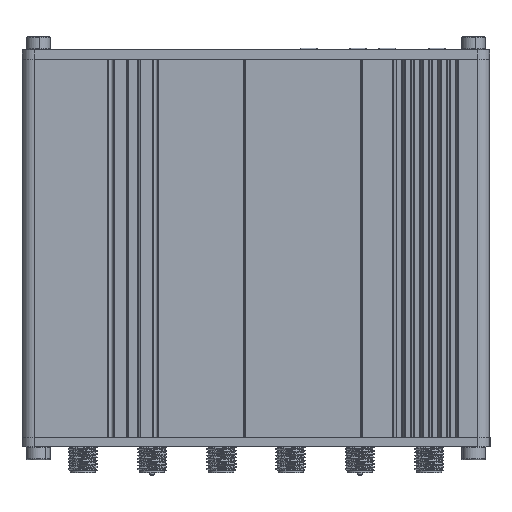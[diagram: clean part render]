
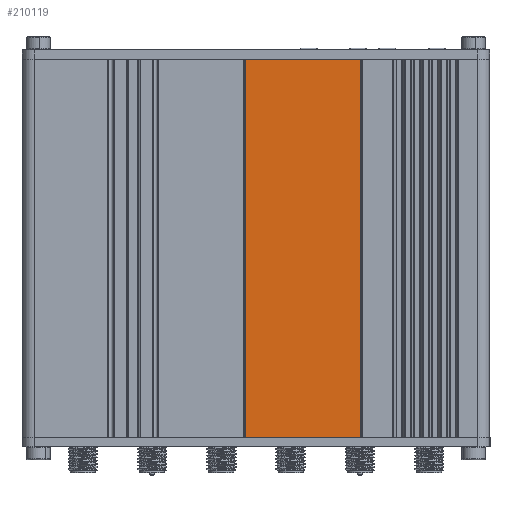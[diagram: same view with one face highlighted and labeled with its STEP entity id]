
A CAD part, front view. The second image highlights one B-rep face of the part: STEP entity #210119.
In plain terms, the highlighted planar face has unit normal (0, -1, 0).
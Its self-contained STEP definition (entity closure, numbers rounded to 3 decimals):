
#16917 = DIRECTION ( 'NONE',  ( -1., 0., 0. ) ) ;
#25293 = DIRECTION ( 'NONE',  ( 0., 0., 1. ) ) ;
#37301 = AXIS2_PLACEMENT_3D ( 'NONE', #129585, #146124, #63103 ) ;
#42012 = VECTOR ( 'NONE', #16917, 1000. ) ;
#47895 = CARTESIAN_POINT ( 'NONE',  ( -2.5, -14.75, 0. ) ) ;
#53178 = VECTOR ( 'NONE', #215626, 1000. ) ;
#63103 = DIRECTION ( 'NONE',  ( 0., 0., 1. ) ) ;
#66379 = PLANE ( 'NONE',  #37301 ) ;
#72935 = EDGE_CURVE ( 'NONE', #83316, #216395, #214543, .T. ) ;
#78652 = FACE_OUTER_BOUND ( 'NONE', #145665, .T. ) ;
#79834 = CARTESIAN_POINT ( 'NONE',  ( 22.25, -14.75, 0. ) ) ;
#83316 = VERTEX_POINT ( 'NONE', #79834 ) ;
#86478 = LINE ( 'NONE', #100891, #42012 ) ;
#94070 = CARTESIAN_POINT ( 'NONE',  ( 22.25, -14.75, 80.8 ) ) ;
#94839 = LINE ( 'NONE', #212930, #216474 ) ;
#100891 = CARTESIAN_POINT ( 'NONE',  ( -2.5, -14.75, 80.8 ) ) ;
#101788 = ORIENTED_EDGE ( 'NONE', *, *, #218233, .T. ) ;
#128569 = CARTESIAN_POINT ( 'NONE',  ( -2.25, -14.75, 0. ) ) ;
#129585 = CARTESIAN_POINT ( 'NONE',  ( -2.5, -14.75, 0. ) ) ;
#132287 = EDGE_CURVE ( 'NONE', #83316, #180810, #94839, .T. ) ;
#137866 = EDGE_CURVE ( 'NONE', #180810, #187773, #86478, .T. ) ;
#140561 = ORIENTED_EDGE ( 'NONE', *, *, #72935, .F. ) ;
#144563 = ORIENTED_EDGE ( 'NONE', *, *, #132287, .T. ) ;
#145665 = EDGE_LOOP ( 'NONE', ( #140561, #144563, #158994, #101788 ) ) ;
#145723 = CARTESIAN_POINT ( 'NONE',  ( -2.25, -14.75, 0. ) ) ;
#146124 = DIRECTION ( 'NONE',  ( 0., 1., 0. ) ) ;
#150661 = VECTOR ( 'NONE', #197417, 1000. ) ;
#158994 = ORIENTED_EDGE ( 'NONE', *, *, #137866, .T. ) ;
#180810 = VERTEX_POINT ( 'NONE', #94070 ) ;
#187773 = VERTEX_POINT ( 'NONE', #209751 ) ;
#197417 = DIRECTION ( 'NONE',  ( 0., 0., -1. ) ) ;
#209751 = CARTESIAN_POINT ( 'NONE',  ( -2.25, -14.75, 80.8 ) ) ;
#210119 = ADVANCED_FACE ( 'NONE', ( #78652 ), #66379, .F. ) ;
#212930 = CARTESIAN_POINT ( 'NONE',  ( 22.25, -14.75, 80.8 ) ) ;
#214543 = LINE ( 'NONE', #47895, #53178 ) ;
#215626 = DIRECTION ( 'NONE',  ( -1., 0., 0. ) ) ;
#216395 = VERTEX_POINT ( 'NONE', #128569 ) ;
#216474 = VECTOR ( 'NONE', #25293, 1000. ) ;
#217205 = LINE ( 'NONE', #145723, #150661 ) ;
#218233 = EDGE_CURVE ( 'NONE', #187773, #216395, #217205, .T. ) ;
